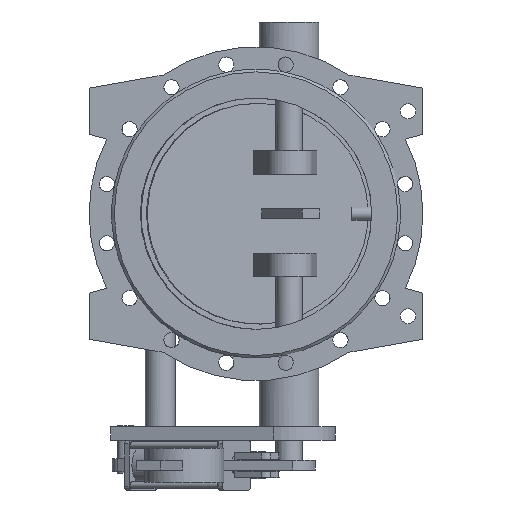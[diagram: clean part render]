
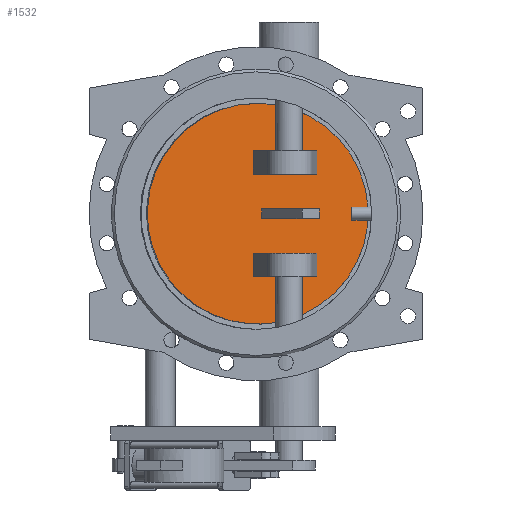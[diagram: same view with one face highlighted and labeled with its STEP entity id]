
A CAD part, front view. The second image highlights one B-rep face of the part: STEP entity #1532.
In plain terms, the highlighted planar face has unit normal (0.131, -0.991, 0).
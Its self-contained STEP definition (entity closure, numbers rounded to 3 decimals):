
#1532=ADVANCED_FACE('',(#3381,#3383,#3385,#3387),#3389,.T.);
#3381=FACE_BOUND('',#3382,.T.);
#3382=EDGE_LOOP('',(#4552));
#3383=FACE_BOUND('',#3384,.T.);
#3384=EDGE_LOOP('',(#4553,#4554,#4555,#4556));
#3385=FACE_BOUND('',#3386,.T.);
#3386=EDGE_LOOP('',(#4557,#4558,#4559,#4560));
#3387=FACE_BOUND('',#3388,.T.);
#3388=EDGE_LOOP('',(#4561,#4562,#4563,#4564));
#3389=PLANE('',#3390);
#3390=AXIS2_PLACEMENT_3D('',#3391,#3392,#3393);
#3391=CARTESIAN_POINT('',(-1.272,9.66,0.));
#3392=DIRECTION('',(0.131,-0.991,0.));
#3393=DIRECTION('',(0.,0.,-1.));
#4552=ORIENTED_EDGE('',*,*,#5077,.T.);
#4553=ORIENTED_EDGE('',*,*,#5096,.F.);
#4554=ORIENTED_EDGE('',*,*,#5097,.F.);
#4555=ORIENTED_EDGE('',*,*,#5098,.F.);
#4556=ORIENTED_EDGE('',*,*,#5099,.F.);
#4557=ORIENTED_EDGE('',*,*,#5100,.F.);
#4558=ORIENTED_EDGE('',*,*,#5101,.F.);
#4559=ORIENTED_EDGE('',*,*,#5102,.F.);
#4560=ORIENTED_EDGE('',*,*,#5103,.F.);
#4561=ORIENTED_EDGE('',*,*,#5104,.F.);
#4562=ORIENTED_EDGE('',*,*,#5105,.F.);
#4563=ORIENTED_EDGE('',*,*,#5106,.F.);
#4564=ORIENTED_EDGE('',*,*,#5107,.F.);
#5077=EDGE_CURVE('',#5844,#5844,#5845,.T.);
#5096=EDGE_CURVE('',#5882,#5883,#5884,.T.);
#5097=EDGE_CURVE('',#5885,#5882,#5886,.F.);
#5098=EDGE_CURVE('',#5887,#5885,#5888,.T.);
#5099=EDGE_CURVE('',#5883,#5887,#5889,.T.);
#5100=EDGE_CURVE('',#5890,#5891,#5892,.F.);
#5101=EDGE_CURVE('',#5893,#5890,#5894,.T.);
#5102=EDGE_CURVE('',#5895,#5893,#5896,.T.);
#5103=EDGE_CURVE('',#5891,#5895,#5897,.T.);
#5104=EDGE_CURVE('',#5898,#5899,#5900,.T.);
#5105=EDGE_CURVE('',#5901,#5898,#5902,.F.);
#5106=EDGE_CURVE('',#5903,#5901,#5904,.F.);
#5107=EDGE_CURVE('',#5899,#5903,#5905,.F.);
#5844=VERTEX_POINT('',#9019);
#5845=B_SPLINE_CURVE_WITH_KNOTS('',3,
(#9020,#9021,#9022,#9023,#9024,#9025,#9026,#9027,#9028,#9029,#9030,#9031,#9032,#9033,
#9034,#9035,#9036,#9037,#9038,#9039,#9040,#9041,#9042,#9043,#9044,#9045,#9046,#9047,
#9048,#9049,#9050,#9051,#9052,#9053,#9054,#9055,#9056,#9057,#9058,#9059,#9060,#9061,
#9062,#9063,#9064,#9065,#9066,#9067,#9068,#9069,#9070),
.UNSPECIFIED.,.T.,.F.,
(4,1,1,1,1,1,1,1,1,1,1,1,1,1,1,1,1,1,1,1,1,1,1,1,1,1,1,1,1,1,1,1,1,1,1,1,1,1,1,1,
1,1,1,1,1,1,1,1,4),
(0.,0.021,0.042,0.063,0.084,
0.105,0.126,0.147,0.168,0.189,
0.211,0.232,0.253,0.274,0.295,
0.316,0.337,0.358,0.379,0.4,
0.421,0.442,0.463,0.484,0.505,
0.526,0.548,0.569,0.59,0.611,
0.632,0.653,0.674,0.695,0.716,
0.737,0.758,0.779,0.8,0.821,
0.843,0.864,0.885,0.906,0.927,
0.948,0.969,0.986,1.),
.UNSPECIFIED.);
#5882=VERTEX_POINT('',#9712);
#5883=VERTEX_POINT('',#9713);
#5884=LINE('',#9714,#9715);
#5885=VERTEX_POINT('',#9717);
#5886=LINE('',#9718,#9719);
#5887=VERTEX_POINT('',#9721);
#5888=LINE('',#9722,#9723);
#5889=LINE('',#9725,#9726);
#5890=VERTEX_POINT('',#9728);
#5891=VERTEX_POINT('',#9729);
#5892=LINE('',#9730,#9731);
#5893=VERTEX_POINT('',#9733);
#5894=LINE('',#9734,#9735);
#5895=VERTEX_POINT('',#9737);
#5896=LINE('',#9738,#9739);
#5897=LINE('',#9741,#9742);
#5898=VERTEX_POINT('',#9744);
#5899=VERTEX_POINT('',#9745);
#5900=LINE('',#9746,#9747);
#5901=VERTEX_POINT('',#9749);
#5902=LINE('',#9750,#9751);
#5903=VERTEX_POINT('',#9753);
#5904=LINE('',#9754,#9755);
#5905=LINE('',#9757,#9758);
#9019=CARTESIAN_POINT('',(2.611,10.171,167.));
#9020=CARTESIAN_POINT('',(2.611,10.171,167.));
#9021=CARTESIAN_POINT('',(-4.724,9.205,167.));
#9022=CARTESIAN_POINT('',(-19.411,7.272,166.032));
#9023=CARTESIAN_POINT('',(-41.088,4.418,161.691));
#9024=CARTESIAN_POINT('',(-62.035,1.66,154.521));
#9025=CARTESIAN_POINT('',(-81.869,-0.951,144.642));
#9026=CARTESIAN_POINT('',(-100.223,-3.367,132.235));
#9027=CARTESIAN_POINT('',(-116.783,-5.547,117.513));
#9028=CARTESIAN_POINT('',(-131.255,-7.453,100.733));
#9029=CARTESIAN_POINT('',(-143.386,-9.05,82.188));
#9030=CARTESIAN_POINT('',(-152.963,-10.311,62.202));
#9031=CARTESIAN_POINT('',(-159.817,-11.213,41.125));
#9032=CARTESIAN_POINT('',(-163.828,-11.741,19.328));
#9033=CARTESIAN_POINT('',(-164.923,-11.885,-2.809));
#9034=CARTESIAN_POINT('',(-163.086,-11.643,-24.895));
#9035=CARTESIAN_POINT('',(-158.347,-11.019,-46.543));
#9036=CARTESIAN_POINT('',(-150.792,-10.025,-67.374));
#9037=CARTESIAN_POINT('',(-140.554,-8.677,-87.024));
#9038=CARTESIAN_POINT('',(-127.812,-6.999,-105.148));
#9039=CARTESIAN_POINT('',(-112.791,-5.022,-121.432));
#9040=CARTESIAN_POINT('',(-95.754,-2.779,-135.59));
#9041=CARTESIAN_POINT('',(-76.999,-0.31,-147.376));
#9042=CARTESIAN_POINT('',(-56.853,2.343,-156.586));
#9043=CARTESIAN_POINT('',(-35.669,5.132,-163.058));
#9044=CARTESIAN_POINT('',(-13.816,8.009,-166.681));
#9045=CARTESIAN_POINT('',(8.324,10.923,-167.39));
#9046=CARTESIAN_POINT('',(30.365,13.825,-165.174));
#9047=CARTESIAN_POINT('',(51.922,16.663,-160.07));
#9048=CARTESIAN_POINT('',(72.619,19.388,-152.168));
#9049=CARTESIAN_POINT('',(92.093,21.952,-141.604));
#9050=CARTESIAN_POINT('',(110.004,24.31,-128.563));
#9051=CARTESIAN_POINT('',(126.039,26.421,-113.271));
#9052=CARTESIAN_POINT('',(139.916,28.248,-95.995));
#9053=CARTESIAN_POINT('',(151.392,29.759,-77.036));
#9054=CARTESIAN_POINT('',(160.265,30.927,-56.728));
#9055=CARTESIAN_POINT('',(166.377,31.731,-35.424));
#9056=CARTESIAN_POINT('',(169.623,32.159,-13.499));
#9057=CARTESIAN_POINT('',(169.944,32.201,8.661));
#9058=CARTESIAN_POINT('',(167.335,31.857,30.669));
#9059=CARTESIAN_POINT('',(161.842,31.134,52.138));
#9060=CARTESIAN_POINT('',(153.564,30.044,72.692));
#9061=CARTESIAN_POINT('',(142.645,28.607,91.972));
#9062=CARTESIAN_POINT('',(129.278,26.847,109.639));
#9063=CARTESIAN_POINT('',(113.697,24.796,125.388));
#9064=CARTESIAN_POINT('',(96.18,22.49,138.939));
#9065=CARTESIAN_POINT('',(77.054,19.972,150.047));
#9066=CARTESIAN_POINT('',(56.596,17.278,158.557));
#9067=CARTESIAN_POINT('',(36.422,14.622,163.964));
#9068=CARTESIAN_POINT('',(18.283,12.234,166.532));
#9069=CARTESIAN_POINT('',(7.401,10.802,167.));
#9070=CARTESIAN_POINT('',(2.611,10.171,167.));
#9712=CARTESIAN_POINT('',(82.749,20.722,-7.5));
#9713=CARTESIAN_POINT('',(82.749,20.722,7.5));
#9714=CARTESIAN_POINT('',(82.749,20.722,-7.5));
#9715=VECTOR('',#9716,1.);
#9716=DIRECTION('',(0.,0.,1.));
#9717=CARTESIAN_POINT('',(8.391,10.932,-7.5));
#9718=CARTESIAN_POINT('',(82.749,20.722,-7.5));
#9719=VECTOR('',#9720,1.);
#9720=DIRECTION('',(-0.991,-0.131,0.));
#9721=CARTESIAN_POINT('',(8.391,10.932,7.5));
#9722=CARTESIAN_POINT('',(8.391,10.932,7.5));
#9723=VECTOR('',#9724,1.);
#9724=DIRECTION('',(0.,0.,-1.));
#9725=CARTESIAN_POINT('',(82.749,20.722,7.5));
#9726=VECTOR('',#9727,1.);
#9727=DIRECTION('',(-0.991,-0.131,0.));
#9728=CARTESIAN_POINT('',(-4.154,9.281,-95.));
#9729=CARTESIAN_POINT('',(92.142,21.958,-95.));
#9730=CARTESIAN_POINT('',(92.142,21.958,-95.));
#9731=VECTOR('',#9732,1.);
#9732=DIRECTION('',(-0.991,-0.131,0.));
#9733=CARTESIAN_POINT('',(-4.154,9.281,-60.));
#9734=CARTESIAN_POINT('',(-4.154,9.281,-60.));
#9735=VECTOR('',#9736,1.);
#9736=DIRECTION('',(0.,0.,-1.));
#9737=CARTESIAN_POINT('',(92.142,21.958,-60.));
#9738=CARTESIAN_POINT('',(92.142,21.958,-60.));
#9739=VECTOR('',#9740,1.);
#9740=DIRECTION('',(-0.991,-0.131,0.));
#9741=CARTESIAN_POINT('',(92.142,21.958,-95.));
#9742=VECTOR('',#9743,1.);
#9743=DIRECTION('',(0.,0.,1.));
#9744=CARTESIAN_POINT('',(92.142,21.958,95.));
#9745=CARTESIAN_POINT('',(-4.154,9.281,95.));
#9746=CARTESIAN_POINT('',(92.142,21.958,95.));
#9747=VECTOR('',#9748,1.);
#9748=DIRECTION('',(-0.991,-0.131,0.));
#9749=CARTESIAN_POINT('',(92.142,21.958,60.));
#9750=CARTESIAN_POINT('',(92.142,21.958,95.));
#9751=VECTOR('',#9752,1.);
#9752=DIRECTION('',(0.,0.,-1.));
#9753=CARTESIAN_POINT('',(-4.154,9.281,60.));
#9754=CARTESIAN_POINT('',(92.142,21.958,60.));
#9755=VECTOR('',#9756,1.);
#9756=DIRECTION('',(-0.991,-0.131,0.));
#9757=CARTESIAN_POINT('',(-4.154,9.281,60.));
#9758=VECTOR('',#9759,1.);
#9759=DIRECTION('',(0.,0.,1.));
